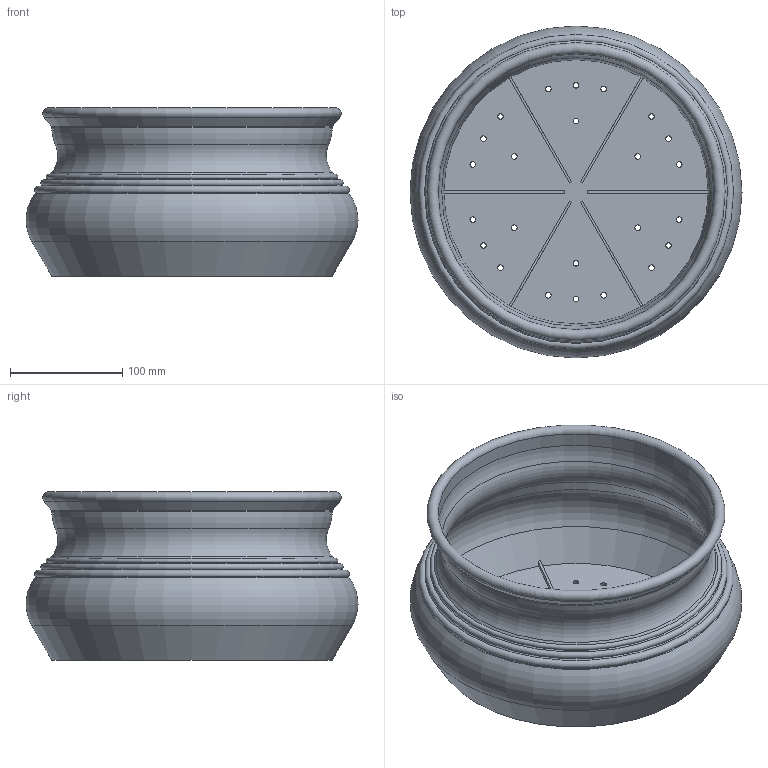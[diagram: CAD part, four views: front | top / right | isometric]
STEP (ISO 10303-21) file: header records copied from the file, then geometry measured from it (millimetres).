
FILE_DESCRIPTION(/* description */ (''),/* implementation_level */ '2;1');
FILE_NAME(/* name */ 'LR2406-S20-H150-D300_step.step',/* time_stamp */ '2024-02-01T11:01:23+01:00',/* author */ (''),/* organization */ (''),/* preprocessor_version */ 'ST-DEVELOPER v20',/* originating_system */ 'Autodesk Translation Framework v12.20.1.177',/* authorisation */ '');
FILE_SCHEMA (('AUTOMOTIVE_DESIGN { 1 0 10303 214 3 1 1 }'));
Length unit declared in the file: millimetre
Products named in the file (1): LR2406-S20-H150-D300
Bounding box: 295.99 x 295.99 x 150 mm (x, y, z)
Volume: 463638.8 mm3; surface area: 387966.1 mm2
Topology: 1 solids, 1 shells, 70 faces, 185 edges, 117 vertices
Faces by surface type: cylinder 32, plane 20, torus 10, cone 8
Full cylindrical faces by diameter (mm): 5 x24, 246 x1, 250 x1
Entity records: 2336 total; most frequent: DIRECTION 430, CARTESIAN_POINT 373, ORIENTED_EDGE 370, EDGE_CURVE 185, AXIS2_PLACEMENT_3D 174, EDGE_LOOP 118, VERTEX_POINT 117, CIRCLE 103
